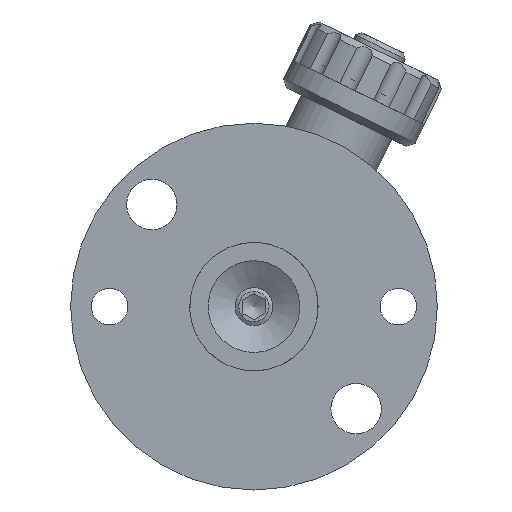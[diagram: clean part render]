
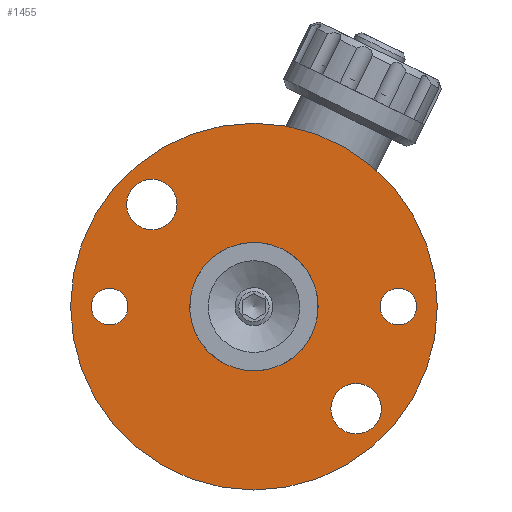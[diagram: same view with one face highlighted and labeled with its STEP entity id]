
A CAD part, left-side view. The second image highlights one B-rep face of the part: STEP entity #1455.
In plain terms, the highlighted planar face has unit normal (-1, 0, 0).
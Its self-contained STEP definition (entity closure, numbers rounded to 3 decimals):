
#219=PLANE('',#1583);
#259=FACE_BOUND('',#451,.T.);
#260=FACE_BOUND('',#452,.T.);
#261=FACE_BOUND('',#453,.T.);
#262=FACE_BOUND('',#454,.T.);
#263=FACE_BOUND('',#455,.T.);
#333=FACE_OUTER_BOUND('',#450,.T.);
#450=EDGE_LOOP('',(#1086));
#451=EDGE_LOOP('',(#1087));
#452=EDGE_LOOP('',(#1088));
#453=EDGE_LOOP('',(#1089));
#454=EDGE_LOOP('',(#1090));
#455=EDGE_LOOP('',(#1091));
#594=CIRCLE('',#1550,2.);
#596=CIRCLE('',#1553,2.);
#602=CIRCLE('',#1567,2.75);
#604=CIRCLE('',#1570,2.75);
#606=CIRCLE('',#1573,7.);
#609=CIRCLE('',#1577,20.);
#697=VERTEX_POINT('',#2259);
#699=VERTEX_POINT('',#2264);
#715=VERTEX_POINT('',#2363);
#717=VERTEX_POINT('',#2368);
#719=VERTEX_POINT('',#2373);
#722=VERTEX_POINT('',#2380);
#840=EDGE_CURVE('',#697,#697,#594,.T.);
#842=EDGE_CURVE('',#699,#699,#596,.T.);
#865=EDGE_CURVE('',#715,#715,#602,.T.);
#867=EDGE_CURVE('',#717,#717,#604,.T.);
#869=EDGE_CURVE('',#719,#719,#606,.T.);
#872=EDGE_CURVE('',#722,#722,#609,.T.);
#1086=ORIENTED_EDGE('',*,*,#872,.F.);
#1087=ORIENTED_EDGE('',*,*,#840,.T.);
#1088=ORIENTED_EDGE('',*,*,#842,.T.);
#1089=ORIENTED_EDGE('',*,*,#865,.T.);
#1090=ORIENTED_EDGE('',*,*,#867,.T.);
#1091=ORIENTED_EDGE('',*,*,#869,.T.);
#1455=ADVANCED_FACE('',(#333,#259,#260,#261,#262,#263),#219,.T.);
#1550=AXIS2_PLACEMENT_3D('',#2260,#1772,#1773);
#1553=AXIS2_PLACEMENT_3D('',#2265,#1778,#1779);
#1567=AXIS2_PLACEMENT_3D('',#2364,#1819,#1820);
#1570=AXIS2_PLACEMENT_3D('',#2369,#1825,#1826);
#1573=AXIS2_PLACEMENT_3D('',#2374,#1831,#1832);
#1577=AXIS2_PLACEMENT_3D('',#2381,#1839,#1840);
#1583=AXIS2_PLACEMENT_3D('',#2389,#1851,#1852);
#1772=DIRECTION('center_axis',(1.,0.,0.));
#1773=DIRECTION('ref_axis',(0.,0.,-1.));
#1778=DIRECTION('center_axis',(1.,0.,0.));
#1779=DIRECTION('ref_axis',(0.,0.,-1.));
#1819=DIRECTION('center_axis',(1.,0.,0.));
#1820=DIRECTION('ref_axis',(0.,0.,1.));
#1825=DIRECTION('center_axis',(1.,0.,0.));
#1826=DIRECTION('ref_axis',(0.,0.,-1.));
#1831=DIRECTION('center_axis',(1.,0.,0.));
#1832=DIRECTION('ref_axis',(0.,1.,0.));
#1839=DIRECTION('center_axis',(1.,0.,0.));
#1840=DIRECTION('ref_axis',(0.,1.,0.));
#1851=DIRECTION('center_axis',(-1.,0.,0.));
#1852=DIRECTION('ref_axis',(0.,0.,1.));
#2259=CARTESIAN_POINT('',(0.,15.75,2.));
#2260=CARTESIAN_POINT('Origin',(0.,15.75,0.));
#2264=CARTESIAN_POINT('',(0.,-15.75,2.));
#2265=CARTESIAN_POINT('Origin',(0.,-15.75,0.));
#2363=CARTESIAN_POINT('',(0.,11.137,8.387));
#2364=CARTESIAN_POINT('Origin',(0.,11.137,11.137));
#2368=CARTESIAN_POINT('',(0.,-11.137,-8.387));
#2369=CARTESIAN_POINT('Origin',(0.,-11.137,-11.137));
#2373=CARTESIAN_POINT('',(0.,-7.,0.));
#2374=CARTESIAN_POINT('Origin',(0.,0.,0.));
#2380=CARTESIAN_POINT('',(0.,20.,0.));
#2381=CARTESIAN_POINT('Origin',(0.,0.,
0.));
#2389=CARTESIAN_POINT('Origin',(0.,10.,0.));
